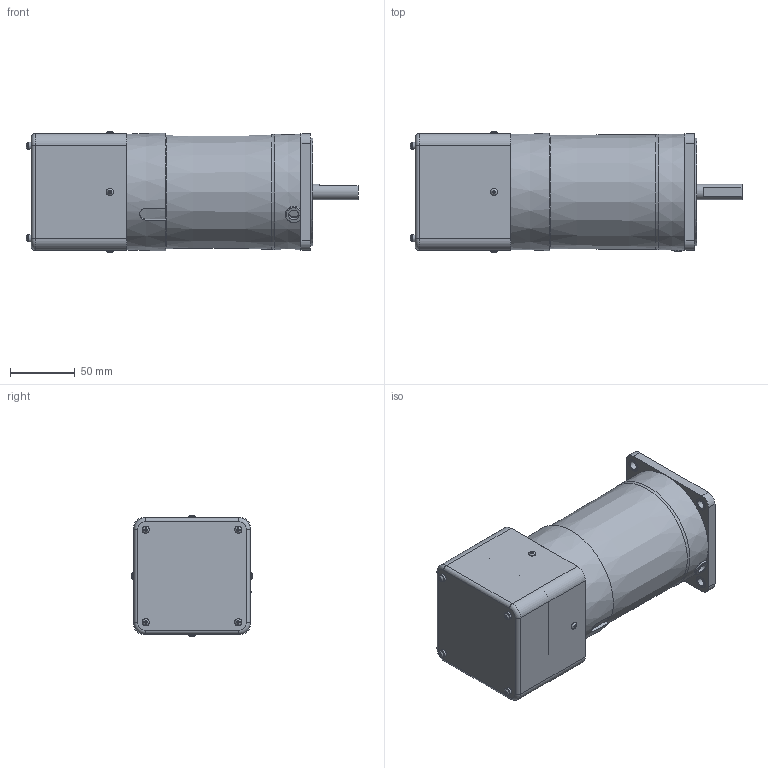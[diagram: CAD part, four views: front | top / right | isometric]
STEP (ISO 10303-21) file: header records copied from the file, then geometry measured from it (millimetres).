
FILE_DESCRIPTION((''),'2;1');
FILE_NAME('D:\김성묵\업무폴더\개발 파일\프로젝트 개발 AB등급\AC표준형 개발자료\90각 이하 표준형 개발\도면작성 자료\3D 도면\홈페이지용 3D 파일\90W MOTOR\ES TYPE\S9R90D-ES.stp','2015-03-31T10:36:31',('smkim'),(''),'Autodesk Inventor 2012','Autodesk Inventor 2012','');
FILE_SCHEMA(('AUTOMOTIVE_DESIGN { 1 0 10303 214 1 1 1 1 }'));
Length unit declared in the file: millimetre
Products named in the file (1): 부품17
Bounding box: 256.25 x 93.89 x 93.89 mm (x, y, z)
Volume: 1221175.4 mm3; surface area: 117441.6 mm2
Topology: 1 solids, 7 shells, 293 faces, 701 edges, 452 vertices
Faces by surface type: plane 179, cylinder 72, torus 26, cone 8, bspline 8
Full cylindrical faces by diameter (mm): 3 x8, 4.5 x4, 5.6 x12, 6.5 x4, 8 x1, 9.5 x4, 10 x1, 12 x1, 40 x1, 83 x1, 86 x1
Entity records: 8848 total; most frequent: CARTESIAN_POINT 2287, DIRECTION 1260, ORIENTED_EDGE 1226, EDGE_CURVE 613, AXIS2_PLACEMENT_3D 465, VERTEX_POINT 436, EDGE_LOOP 411, VECTOR 330
